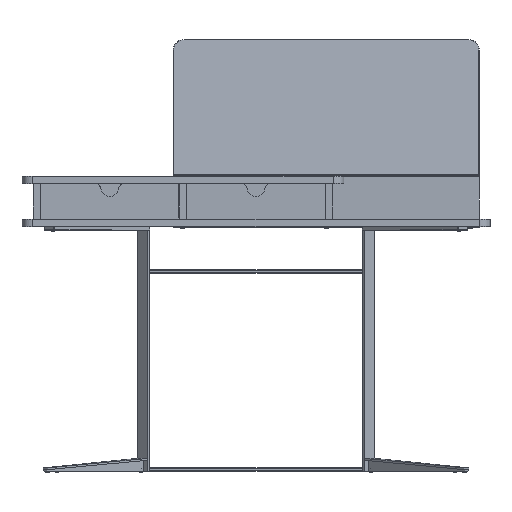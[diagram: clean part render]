
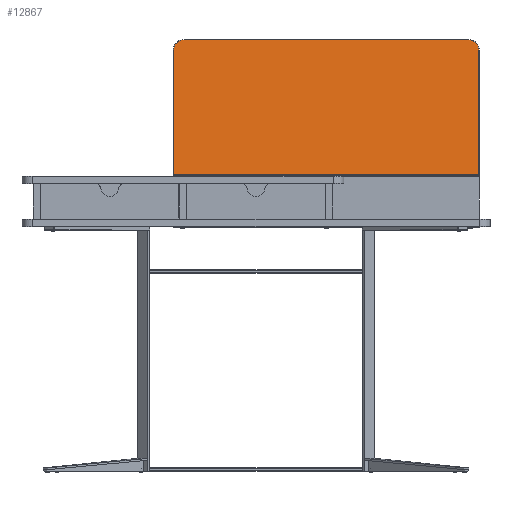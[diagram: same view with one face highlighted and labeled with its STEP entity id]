
A CAD part, top view. The second image highlights one B-rep face of the part: STEP entity #12867.
In plain terms, the highlighted planar face has unit normal (0, 0.113, 0.994) as drawn and (0, 0, 1) by its records, which use the part's own axes.
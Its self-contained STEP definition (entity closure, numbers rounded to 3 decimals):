
#207 = FACE_OUTER_BOUND ( 'NONE', #10190, .T. ) ;
#283 = VECTOR ( 'NONE', #9503, 1000. ) ;
#582 = ORIENTED_EDGE ( 'NONE', *, *, #5554, .T. ) ;
#882 = VECTOR ( 'NONE', #2665, 1000. ) ;
#1041 = VECTOR ( 'NONE', #7874, 1000. ) ;
#1425 = CIRCLE ( 'NONE', #14798, 29. ) ;
#2451 = CARTESIAN_POINT ( 'NONE',  ( 0., 0., 5. ) ) ;
#2610 = CARTESIAN_POINT ( 'NONE',  ( -395., 160., 5. ) ) ;
#2665 = DIRECTION ( 'NONE',  ( 0., 1., 0. ) ) ;
#2670 = DIRECTION ( 'NONE',  ( 1., 0., 0. ) ) ;
#2918 = CARTESIAN_POINT ( 'NONE',  ( -424., -190., 5. ) ) ;
#2991 = LINE ( 'NONE', #2918, #1041 ) ;
#3268 = VERTEX_POINT ( 'NONE', #13244 ) ;
#3270 = EDGE_CURVE ( 'NONE', #13180, #9161, #6975, .T. ) ;
#3349 = EDGE_CURVE ( 'NONE', #9161, #9759, #2991, .T. ) ;
#3676 = DIRECTION ( 'NONE',  ( 1., 0., 0. ) ) ;
#4326 = CARTESIAN_POINT ( 'NONE',  ( -424., -189., 5. ) ) ;
#4671 = VERTEX_POINT ( 'NONE', #12788 ) ;
#4800 = EDGE_CURVE ( 'NONE', #9759, #8009, #9590, .T. ) ;
#5002 = CARTESIAN_POINT ( 'NONE',  ( -424., 160., 5. ) ) ;
#5082 = DIRECTION ( 'NONE',  ( 0., 0., 1. ) ) ;
#5230 = CARTESIAN_POINT ( 'NONE',  ( 424., 160., 5. ) ) ;
#5554 = EDGE_CURVE ( 'NONE', #4671, #3268, #1425, .T. ) ;
#6651 = LINE ( 'NONE', #7893, #13505 ) ;
#6975 = CIRCLE ( 'NONE', #14923, 29. ) ;
#7458 = EDGE_CURVE ( 'NONE', #8009, #4671, #13217, .T. ) ;
#7516 = CARTESIAN_POINT ( 'NONE',  ( 424., -189., 5. ) ) ;
#7874 = DIRECTION ( 'NONE',  ( 0., -1., 0. ) ) ;
#7893 = CARTESIAN_POINT ( 'NONE',  ( -395., 189., 5. ) ) ;
#8009 = VERTEX_POINT ( 'NONE', #7516 ) ;
#8386 = ORIENTED_EDGE ( 'NONE', *, *, #7458, .T. ) ;
#8414 = PLANE ( 'NONE',  #9519 ) ;
#8912 = ORIENTED_EDGE ( 'NONE', *, *, #13362, .T. ) ;
#9161 = VERTEX_POINT ( 'NONE', #5002 ) ;
#9354 = ORIENTED_EDGE ( 'NONE', *, *, #3349, .T. ) ;
#9503 = DIRECTION ( 'NONE',  ( 1., 0., 0. ) ) ;
#9519 = AXIS2_PLACEMENT_3D ( 'NONE', #2451, #11062, #3676 ) ;
#9590 = LINE ( 'NONE', #14162, #283 ) ;
#9759 = VERTEX_POINT ( 'NONE', #4326 ) ;
#9833 = DIRECTION ( 'NONE',  ( 0., 0., 1. ) ) ;
#10190 = EDGE_LOOP ( 'NONE', ( #8386, #582, #8912, #11397, #9354, #13460 ) ) ;
#11062 = DIRECTION ( 'NONE',  ( 0., 0., 1. ) ) ;
#11397 = ORIENTED_EDGE ( 'NONE', *, *, #3270, .T. ) ;
#12631 = DIRECTION ( 'NONE',  ( -1., 0., 0. ) ) ;
#12788 = CARTESIAN_POINT ( 'NONE',  ( 424., 160., 5. ) ) ;
#12867 = ADVANCED_FACE ( 'NONE', ( #207 ), #8414, .T. ) ;
#13180 = VERTEX_POINT ( 'NONE', #14659 ) ;
#13217 = LINE ( 'NONE', #5230, #882 ) ;
#13244 = CARTESIAN_POINT ( 'NONE',  ( 395., 189., 5. ) ) ;
#13304 = CARTESIAN_POINT ( 'NONE',  ( 395., 160., 5. ) ) ;
#13362 = EDGE_CURVE ( 'NONE', #3268, #13180, #6651, .T. ) ;
#13392 = DIRECTION ( 'NONE',  ( 1., 0., 0. ) ) ;
#13460 = ORIENTED_EDGE ( 'NONE', *, *, #4800, .T. ) ;
#13505 = VECTOR ( 'NONE', #12631, 1000. ) ;
#14162 = CARTESIAN_POINT ( 'NONE',  ( 425., -189., 5. ) ) ;
#14659 = CARTESIAN_POINT ( 'NONE',  ( -395., 189., 5. ) ) ;
#14798 = AXIS2_PLACEMENT_3D ( 'NONE', #13304, #5082, #2670 ) ;
#14923 = AXIS2_PLACEMENT_3D ( 'NONE', #2610, #9833, #13392 ) ;
